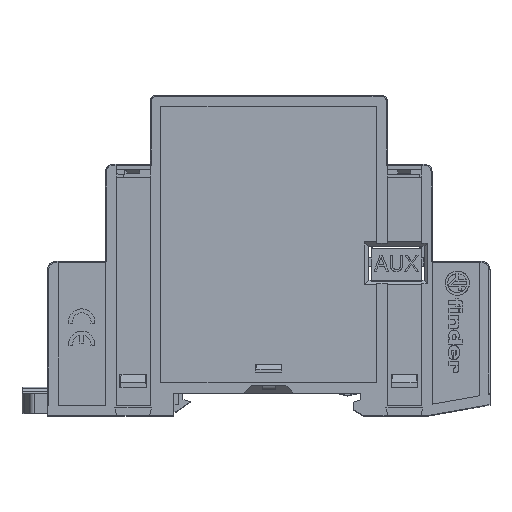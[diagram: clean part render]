
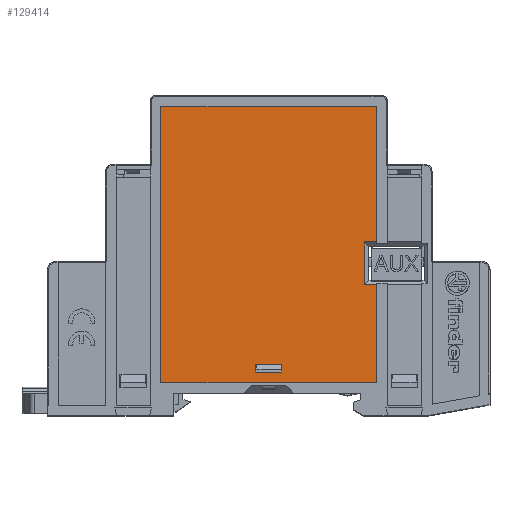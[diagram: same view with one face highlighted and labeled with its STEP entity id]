
A CAD part, top view. The second image highlights one B-rep face of the part: STEP entity #129414.
In plain terms, the highlighted planar face has unit normal (0, 0, 1).
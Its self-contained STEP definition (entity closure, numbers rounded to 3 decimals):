
#6894=LINE('',#174664,#18577);
#6896=LINE('',#174668,#18579);
#6898=LINE('',#174672,#18581);
#6900=LINE('',#174676,#18583);
#8602=LINE('',#179739,#20285);
#8603=LINE('',#179742,#20286);
#8604=LINE('',#179744,#20287);
#8605=LINE('',#179746,#20288);
#8606=LINE('',#179748,#20289);
#8607=LINE('',#179750,#20290);
#8608=LINE('',#179752,#20291);
#8609=LINE('',#179754,#20292);
#18577=VECTOR('',#147906,1000.);
#18579=VECTOR('',#147910,1000.);
#18581=VECTOR('',#147914,1000.);
#18583=VECTOR('',#147918,1000.);
#20285=VECTOR('',#151596,1000.);
#20286=VECTOR('',#151597,1000.);
#20287=VECTOR('',#151598,1000.);
#20288=VECTOR('',#151599,1000.);
#20289=VECTOR('',#151600,1000.);
#20290=VECTOR('',#151601,1000.);
#20291=VECTOR('',#151602,1000.);
#20292=VECTOR('',#151603,1000.);
#39255=ORIENTED_EDGE('',*,*,#60023,.F.);
#39256=ORIENTED_EDGE('',*,*,#60024,.F.);
#39257=ORIENTED_EDGE('',*,*,#60025,.F.);
#39258=ORIENTED_EDGE('',*,*,#60026,.T.);
#39259=ORIENTED_EDGE('',*,*,#60027,.F.);
#39260=ORIENTED_EDGE('',*,*,#60028,.F.);
#39261=ORIENTED_EDGE('',*,*,#60029,.F.);
#39262=ORIENTED_EDGE('',*,*,#60030,.F.);
#39263=ORIENTED_EDGE('',*,*,#57989,.T.);
#39264=ORIENTED_EDGE('',*,*,#57987,.F.);
#39265=ORIENTED_EDGE('',*,*,#57985,.F.);
#39266=ORIENTED_EDGE('',*,*,#57983,.F.);
#57983=EDGE_CURVE('',#69926,#69927,#6894,.T.);
#57985=EDGE_CURVE('',#69927,#69928,#6896,.T.);
#57987=EDGE_CURVE('',#69928,#69929,#6898,.T.);
#57989=EDGE_CURVE('',#69926,#69929,#6900,.T.);
#60023=EDGE_CURVE('',#71217,#71218,#8602,.T.);
#60024=EDGE_CURVE('',#71219,#71217,#8603,.T.);
#60025=EDGE_CURVE('',#71220,#71219,#8604,.T.);
#60026=EDGE_CURVE('',#71220,#71221,#8605,.T.);
#60027=EDGE_CURVE('',#71222,#71221,#8606,.T.);
#60028=EDGE_CURVE('',#71223,#71222,#8607,.T.);
#60029=EDGE_CURVE('',#71224,#71223,#8608,.T.);
#60030=EDGE_CURVE('',#71218,#71224,#8609,.T.);
#69926=VERTEX_POINT('',#174663);
#69927=VERTEX_POINT('',#174665);
#69928=VERTEX_POINT('',#174669);
#69929=VERTEX_POINT('',#174673);
#71217=VERTEX_POINT('',#179740);
#71218=VERTEX_POINT('',#179741);
#71219=VERTEX_POINT('',#179743);
#71220=VERTEX_POINT('',#179745);
#71221=VERTEX_POINT('',#179747);
#71222=VERTEX_POINT('',#179749);
#71223=VERTEX_POINT('',#179751);
#71224=VERTEX_POINT('',#179753);
#79436=EDGE_LOOP('',(#39255,#39256,#39257,#39258,#39259,#39260,#39261,#39262));
#79437=EDGE_LOOP('',(#39263,#39264,#39265,#39266));
#85080=FACE_BOUND('',#79436,.T.);
#85081=FACE_BOUND('',#79437,.T.);
#90137=PLANE('',#135045);
#129414=ADVANCED_FACE('',(#85080,#85081),#90137,.T.);
#135045=AXIS2_PLACEMENT_3D('',#179738,#151594,#151595);
#147906=DIRECTION('',(-1.,0.,0.));
#147910=DIRECTION('',(0.,-1.,0.));
#147914=DIRECTION('',(1.,0.,0.));
#147918=DIRECTION('',(0.,-1.,0.));
#151594=DIRECTION('',(0.,0.,1.));
#151595=DIRECTION('',(1.,0.,0.));
#151596=DIRECTION('',(-1.,0.,0.));
#151597=DIRECTION('',(0.,-1.,0.));
#151598=DIRECTION('',(1.,0.,0.));
#151599=DIRECTION('',(0.,-1.,0.));
#151600=DIRECTION('',(-1.,0.,0.));
#151601=DIRECTION('',(0.,-1.,0.));
#151602=DIRECTION('',(1.,0.,0.));
#151603=DIRECTION('',(0.,-1.,0.));
#174663=CARTESIAN_POINT('',(2.5,-43.5,0.));
#174664=CARTESIAN_POINT('',(2.5,-43.5,0.));
#174665=CARTESIAN_POINT('',(-2.5,-43.5,0.));
#174668=CARTESIAN_POINT('',(-2.5,-43.5,0.));
#174669=CARTESIAN_POINT('',(-2.5,-45.,0.));
#174672=CARTESIAN_POINT('',(-2.5,-45.,0.));
#174673=CARTESIAN_POINT('',(2.5,-45.,0.));
#174676=CARTESIAN_POINT('',(2.5,-43.5,0.));
#179738=CARTESIAN_POINT('',(-20.501,-47.001,0.));
#179739=CARTESIAN_POINT('',(-20.501,-20.3,0.));
#179740=CARTESIAN_POINT('',(20.5,-20.3,0.));
#179741=CARTESIAN_POINT('',(18.2,-20.3,0.));
#179742=CARTESIAN_POINT('',(20.5,5.5,0.));
#179743=CARTESIAN_POINT('',(20.5,5.5,0.));
#179744=CARTESIAN_POINT('',(-20.5,5.5,0.));
#179745=CARTESIAN_POINT('',(-20.5,5.5,0.));
#179746=CARTESIAN_POINT('',(-20.5,5.5,0.));
#179747=CARTESIAN_POINT('',(-20.5,-47.,0.));
#179748=CARTESIAN_POINT('',(20.5,-47.,0.));
#179749=CARTESIAN_POINT('',(20.5,-47.,0.));
#179750=CARTESIAN_POINT('',(20.5,5.5,0.));
#179751=CARTESIAN_POINT('',(20.5,-28.4,0.));
#179752=CARTESIAN_POINT('',(-20.501,-28.4,0.));
#179753=CARTESIAN_POINT('',(18.2,-28.4,0.));
#179754=CARTESIAN_POINT('',(18.2,-47.001,0.));
